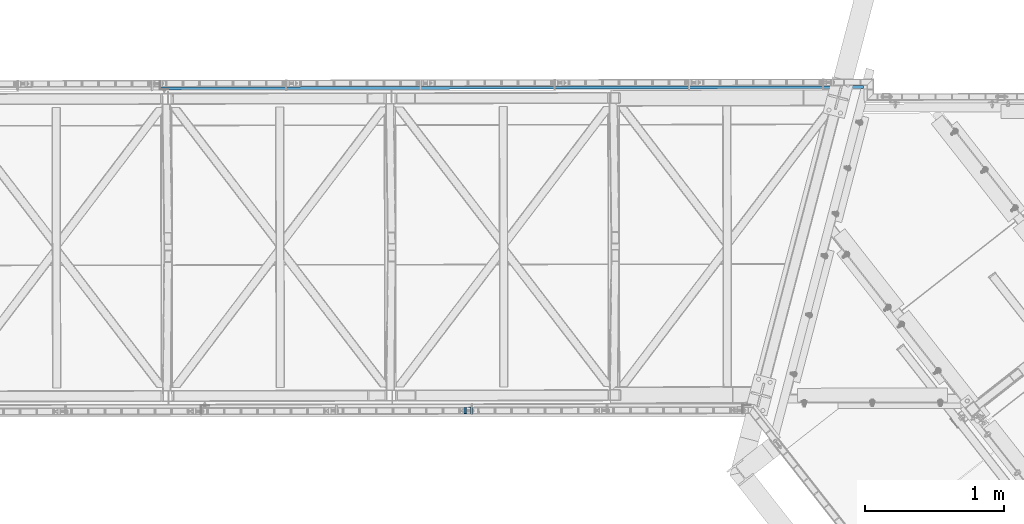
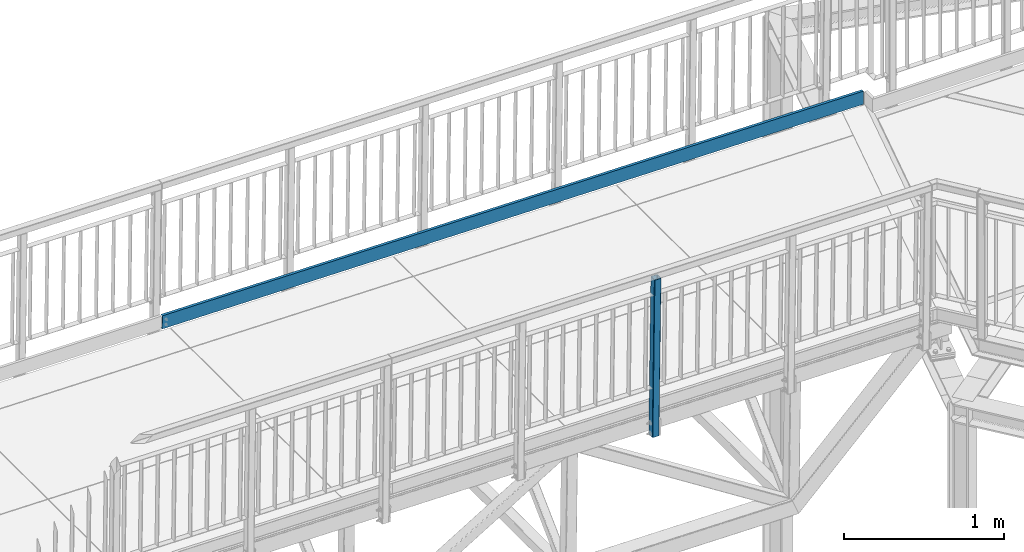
# One storey, part 18 of 169: 1 beam, 1 member, 2 elements without a shape of their own.
"""IFC2X3 building model written with IfcOpenShell, lengths in millimetres."""

from ifc_helpers import new_model, si_unit, frame, origin_with_axes, origin_2d_with_axis, place, context, subcontext, project, spatial, hollow_rectangle, u_section, extrude, clip, halfspace, material, type_object, element, aggregate, save


model = new_model("IFC2X3")

# Units and contexts
model_context = context("Model", 3, precision=1e-05, world=origin_with_axes())
body_context = subcontext(model_context, "Body", "Model", "MODEL_VIEW")
ifc_project = project(units=[si_unit("LENGTHUNIT", "METRE", prefix="MILLI"), si_unit("AREAUNIT", "SQUARE_METRE"), si_unit("VOLUMEUNIT", "CUBIC_METRE"), si_unit("MASSUNIT", "GRAM", prefix="KILO"), si_unit("TIMEUNIT", "SECOND"), si_unit("PLANEANGLEUNIT", "RADIAN"), si_unit("SOLIDANGLEUNIT", "STERADIAN"), si_unit("THERMODYNAMICTEMPERATUREUNIT", "DEGREE_CELSIUS"), si_unit("LUMINOUSINTENSITYUNIT", "LUMEN")], contexts=[model_context])

# Site, building, storey
site_placement = place(None, origin_with_axes())
site = spatial("IfcSite", under=ifc_project, at=site_placement, Name="Undefined", CompositionType="ELEMENT")
building_placement = place(site_placement, origin_with_axes())
building = spatial("IfcBuilding", under=site, at=building_placement, Name="Undefined", CompositionType="ELEMENT")
storey_placement = place(building_placement, origin_with_axes())
storey = spatial("IfcBuildingStorey", under=building, at=storey_placement, Name="Undefined", CompositionType="ELEMENT", Elevation=0.0)

# Assembly, beam
assembly_1_placement = place(storey_placement, origin_with_axes())
assembly_1 = element("IfcElementAssembly", 1, at=assembly_1_placement, inside=storey, Name="Steel Assembly", AssemblyPlace="NOTDEFINED", PredefinedType="RIGID_FRAME")
ifc_material_1 = material(Name="STEEL/S235JR")
beam_type = type_object("IfcBeamType", Name="C100*20*2", PredefinedType="NOTDEFINED")
beam_placement = place(assembly_1_placement, frame((19175.9279439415, 2355.77932359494, 13850.3281478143), z_axis=(0.0127321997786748, 2.37869995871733e-05, 0.999918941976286), x_axis=(-0.999917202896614, -0.0018649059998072, 0.0127322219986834)))
beam = element("IfcBeam", 2, at=beam_placement, type_object=beam_type, material=ifc_material_1, Name="KICK_PLATE", ObjectType="C100*20*2", context=body_context, shape_type="SweptSolid", body=[
    extrude(u_section(Depth=100.0, FlangeWidth=20.0, WebThickness=2.0, FlangeThickness=2.0, FilletRadius=3.0, at=origin_2d_with_axis()), frame((5060.00000000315, 4.55356270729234e-13, -1.8277671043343e-12), z_axis=(-1.0, -3.46944695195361e-18, -1.38777878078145e-17), x_axis=(1.73472347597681e-18, -1.0, 0.0)), (0.0, 0.0, 1.0), 5060.0),
])
aggregate(assembly_1, [beam])

# Assembly, member
assembly_2_placement = place(storey_placement, origin_with_axes())
assembly_2 = element("IfcElementAssembly", 3, at=assembly_2_placement, inside=storey, Name="Steel Assembly", AssemblyPlace="NOTDEFINED", PredefinedType="RIGID_FRAME")
ifc_material_2 = material(Name="STEEL/S235")
member_type = type_object("IfcMemberType", Name="SHS50*3", PredefinedType="NOTDEFINED")
member_placement = place(assembly_2_placement, frame((16327.8514007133, 25.4629821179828, 13806.6844148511), z_axis=(0.00186484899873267, -0.999998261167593, 4.28757666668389e-08), x_axis=(0.012713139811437, 2.3750999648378e-05, 0.999919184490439)))
member = element("IfcMember", 4, at=member_placement, type_object=member_type, material=ifc_material_2, Name="STANCHION", ObjectType="SHS50*3", context=body_context, shape_type="Clipping", body=[
    clip(clip(extrude(hollow_rectangle(XDim=50.0, YDim=50.0, WallThickness=3.0, InnerFilletRadius=3.0, OuterFilletRadius=6.0, at=origin_2d_with_axis()), frame((1074.99999999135, -5.68489533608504e-14, -9.13224357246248e-13), z_axis=(-1.0, -3.46944695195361e-18, -1.38777878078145e-17), x_axis=(1.73472347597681e-18, -1.0, 0.0)), (0.0, 0.0, 1.0), 1195.0), halfspace(frame((1075.00000000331, 25.0000002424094, 2.62741739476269e-09), z_axis=(1.0, 0.0, 0.0), x_axis=(0.0, 0.0, 1.0)), False)), halfspace(frame((-120.000000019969, -1025.00000000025, -5.14306819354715e-10), z_axis=(1.0, 0.0, 0.0), x_axis=(0.0, 0.0, 1.0)), True)),
])
aggregate(assembly_2, [member])

save(model, "model.ifc")
